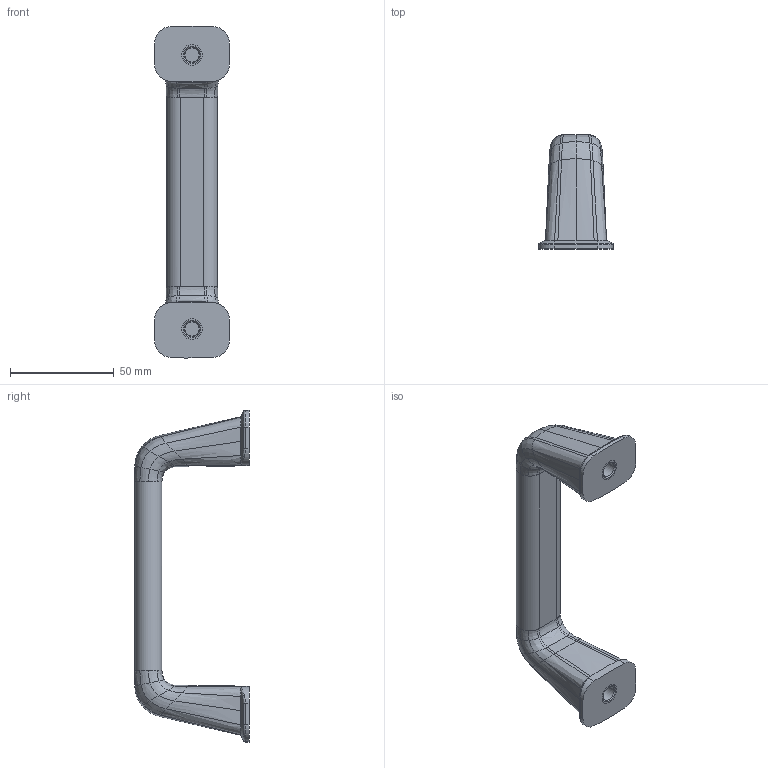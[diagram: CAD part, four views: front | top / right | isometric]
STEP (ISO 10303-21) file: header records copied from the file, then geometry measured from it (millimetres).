
FILE_DESCRIPTION((''),'2;1');
FILE_NAME('3SJ_LS505_0001LASHOU_ASM','2016-07-11T',('master'),(''),'PRO/ENGINEER BY PARAMETRIC TECHNOLOGY CORPORATION, 2009060','PRO/ENGINEER BY PARAMETRIC TECHNOLOGY CORPORATION, 2009060','');
FILE_SCHEMA(('CONFIG_CONTROL_DESIGN'));
Length unit declared in the file: millimetre
Products named in the file (3): 8SJ_LS505_0670LASHOU; 8SJ_LS505_0760QIANJIANLUOMU; 3SJ_LS505_0001LASHOU_ASM
Assembly tree (3 placements, depth 2):
  3SJ_LS505_0001LASHOU_ASM
    8SJ_LS505_0670LASHOU
    8SJ_LS505_0760QIANJIANLUOMU  x2
Bounding box: 36 x 55 x 159.92 mm (x, y, z)
Volume: 79936.7 mm3; surface area: 20340.6 mm2
Topology: 3 solids, 3 shells, 274 faces, 626 edges, 374 vertices
Faces by surface type: bspline 128, plane 80, cylinder 42, cone 18, torus 6
Entity records: 9341 total; most frequent: CARTESIAN_POINT 4514, ORIENTED_EDGE 1128, DIRECTION 689, EDGE_CURVE 564, VERTEX_POINT 334, EDGE_LOOP 262, FACE_OUTER_BOUND 247, ADVANCED_FACE 247
